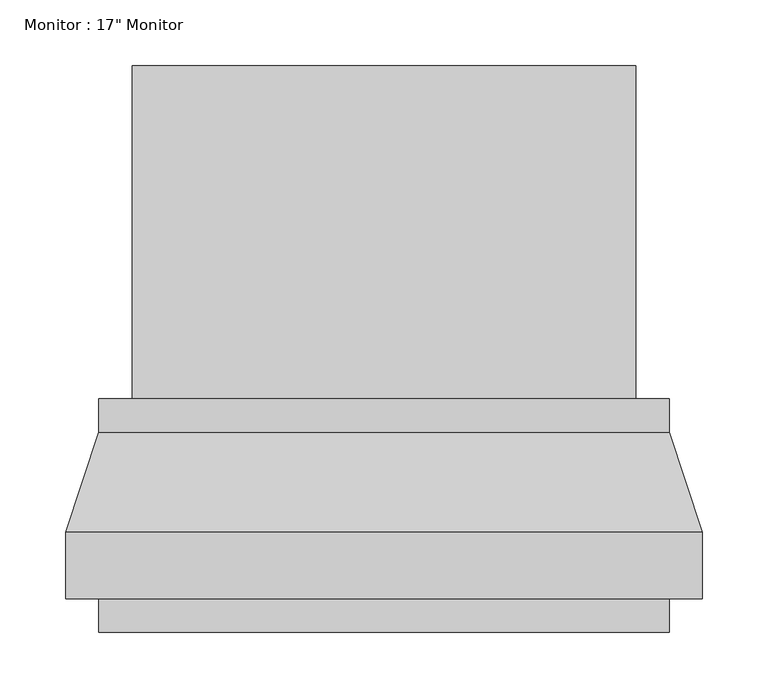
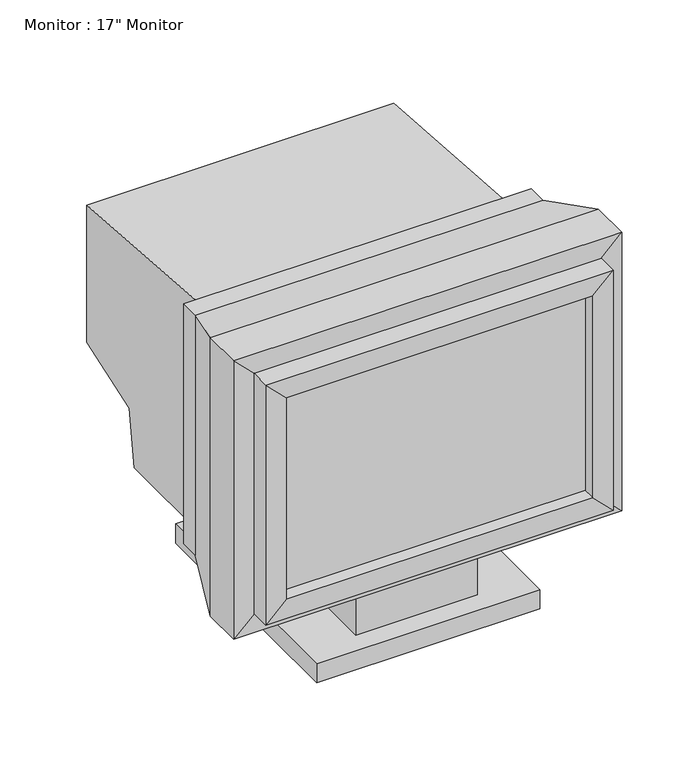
"""IFC4 building model written with IfcOpenShell, lengths in millimetres: proxy geometry."""

from ifc_helpers import new_model, si_unit, point, frame, frame_2d, origin, origin_with_axes, place, context, project, spatial, polyline, circle_curve, trimmed, segment, composite_curve, outline, extrude, faceted_brep, source, transform, mapped, element, save


def proxy_36ae4762(model_context):
    return source(origin(), model_context, "Body", "SolidModel", [
        extrude(outline(polyline([(214.9166316, -161.7265625), (-168.9513034, -161.7265625), (-168.9513034, -152.4), (214.9166316, -152.4), (214.9166316, -161.7265625)])), frame((0.0, 0.0, 144.3844541), z_axis=(0.0, 0.0, 1.0), x_axis=(1.0, 0.0, 0.0)), (0.0, 0.0, 1.0), 266.7000109),
        faceted_brep([(265.7166316, -152.4, 93.5844541), (265.7166316, -101.6, 93.5844541), (265.7166316, -101.6, 461.884465), (265.7166316, -152.4, 461.884465), (240.3166316, -152.4, 118.9844541), (240.3166316, -152.4, 436.484465), (240.3166316, -177.799907, 118.9844541), (240.3166316, -177.799907, 436.484465), (214.9166316, -177.799907, 144.3844541), (214.9166316, -177.799907, 411.084465), (214.9166316, 0.0, 144.3844541), (214.9166316, 0.0, 411.084465), (240.3166316, 0.0, 118.9844541), (240.3166316, 0.0, 436.484465), (240.3166316, -25.3999981, 118.9844541), (240.3166316, -25.3999981, 436.484465), (-219.7513034, -101.6, 461.884465), (-219.7513034, -152.4, 461.884465), (-194.3513034, -152.4, 436.484465), (-194.3513034, -177.799907, 436.484465), (-168.9513034, -177.799907, 411.084465), (-168.9513034, 0.0, 411.084465), (-194.3513034, 0.0, 436.484465), (-194.3513034, -25.3999981, 436.484465), (-219.7513034, -101.6, 93.5844541), (-219.7513034, -152.4, 93.5844541), (-194.3513034, -152.4, 118.9844541), (-194.3513034, -177.799907, 118.9844541), (-168.9513034, -177.799907, 144.3844541), (-168.9513034, 0.0, 144.3844541), (-194.3513034, 0.0, 118.9844541), (-194.3513034, -25.3999981, 118.9844541)], [[[0, 1, 2, 3]], [[4, 0, 3, 5]], [[6, 4, 5, 7]], [[8, 6, 7, 9]], [[10, 8, 9, 11]], [[12, 10, 11, 13]], [[14, 12, 13, 15]], [[1, 14, 15, 2]], [[3, 2, 16, 17]], [[5, 3, 17, 18]], [[7, 5, 18, 19]], [[9, 7, 19, 20]], [[11, 9, 20, 21]], [[13, 11, 21, 22]], [[15, 13, 22, 23]], [[2, 15, 23, 16]], [[17, 16, 24, 25]], [[18, 17, 25, 26]], [[19, 18, 26, 27]], [[20, 19, 27, 28]], [[21, 20, 28, 29]], [[22, 21, 29, 30]], [[23, 22, 30, 31]], [[16, 23, 31, 24]], [[25, 24, 1, 0]], [[26, 25, 0, 4]], [[27, 26, 4, 6]], [[28, 27, 6, 8]], [[29, 28, 8, 10]], [[30, 29, 10, 12]], [[31, 30, 12, 14]], [[24, 31, 14, 1]]]),
        extrude(outline(composite_curve([segment(trimmed(circle_curve(frame_2d((-1.1888517, 334.4924126)), 276.6194149), [point((127.0, 89.3681196))], [point((-127.0, 88.1393009))], False, "CARTESIAN"), True, "CONTINUOUS"), segment(polyline([(-127.0, 88.1393009), (-127.0, 118.9844541), (127.0, 118.9844541), (127.0, 89.3681196)]), True, "CONTINUOUS")], self_intersect=False)), frame((-39.9495426, 0.0, 0.0), z_axis=(1.0, 0.0, 0.0), x_axis=(0.0, 1.0, 0.0)), (0.0, 0.0, 1.0), 127.0),
        extrude(outline(polyline([(99.7504574, 127.0), (99.7504574, -127.0), (-52.6495426, -127.0), (-52.6495426, 127.0), (99.7504574, 127.0)])), frame((0.0, 0.0, 25.4), z_axis=(0.0, 0.0, 1.0), x_axis=(1.0, 0.0, 0.0)), (0.0, 0.0, 1.0), 50.8),
        extrude(outline(polyline([(163.2504574, 152.4), (163.2504574, -152.4), (-116.1495426, -152.4), (-116.1495426, 152.4), (163.2504574, 152.4)])), origin_with_axes(), (0.0, 0.0, 1.0), 25.4),
        extrude(outline(polyline([(254.0, 403.9622055), (254.0, 222.3422023), (161.4172866, 191.6127387), (151.0419341, 118.9844541), (0.0, 118.9844541), (0.0, 422.8068871), (254.0, 403.9622055)])), frame((-168.9513034, 0.0, 0.0), z_axis=(1.0, 0.0, 0.0), x_axis=(0.0, 1.0, 0.0)), (0.0, 0.0, 1.0), 383.867935),
    ])


if __name__ == "__main__":
    model = new_model("IFC4")
    model_context = context("Model", 3, world=origin())
    ifc_project = project(units=[si_unit("LENGTHUNIT", "METRE", prefix="MILLI")], contexts=[model_context])
    site = spatial("IfcSite", under=ifc_project)
    building = spatial("IfcBuilding", under=site)
    placement = place(None, origin())
    proxy_shape = proxy_36ae4762(model_context)
    element("IfcBuildingElementProxy", 1, Name="Monitor : 17\" Monitor", ObjectType="Monitor : 17\" Monitor", at=placement, inside=building, context=model_context, shape_type="MappedRepresentation", body=[
        mapped(proxy_shape, transform((0.0, 0.0, 0.0), x_axis=(1.0, 0.0, 0.0), y_axis=(0.0, 1.0, 0.0), z_axis=(0.0, 0.0, 1.0))),
    ])
    save(model, "model.ifc")
